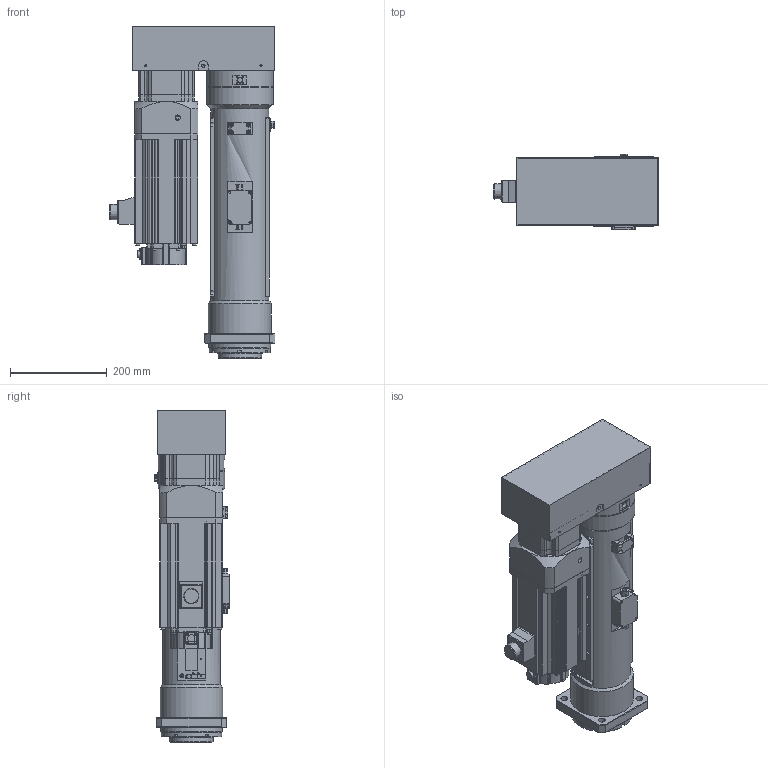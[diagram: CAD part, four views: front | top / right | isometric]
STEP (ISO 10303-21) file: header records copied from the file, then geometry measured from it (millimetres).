
FILE_DESCRIPTION( ('This file contains a STEP AP42 implementation' ,'as created by ZW3D STEP Interface translator.') ,'2;1' );
FILE_NAME( 'OACIS-DC-P050-300-200-A6_V20.01.stp' ,'25 3 8. 95057', (''), ('ZWCAD Software Co.'), 'Version 1.0', 'ZW3D to STEP translator', '' );
FILE_SCHEMA(('AUTOMOTIVE_DESIGN { 1 0 10303 214 1 1 1 1 }'));
Length unit declared in the file: millimetre
Products named in the file (2): 0; OACIS-DC-P050-300-200-A6_V20.01
Bounding box: 343 x 155 x 686.5 mm (x, y, z)
Volume: 11301125.1 mm3; surface area: 1652288.7 mm2
Topology: 21 solids, 26 shells, 1908 faces, 4864 edges, 3142 vertices
Faces by surface type: plane 856, cylinder 675, cone 209, bspline 133, torus 31, sphere 4
Full cylindrical faces by diameter (mm): 1.567 x4, 2 x1, 2.459 x1, 3.3 x83, 4.2 x4, 4.3 x26, 4.5 x14, 4.917 x20, 5 x1, 5.3 x4, 5.5 x4, 6 x8, 6.5 x4, 6.8 x40, 7 x4, 8 x26, 8.4 x8, 8.5 x4, 9 x14, 9.5 x4, 9.78 x8, 10 x3, 10.1 x4, 10.2 x16, 10.5 x4, 12 x1, 14 x4, 14.8 x1, 15 x8, 16.5 x2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
Entity records: 63364 total; most frequent: CARTESIAN_POINT 15049, DIRECTION 9656, ORIENTED_EDGE 9523, EDGE_CURVE 4769, AXIS2_PLACEMENT_3D 3560, VERTEX_POINT 3139, VECTOR 2536, LINE 2536
